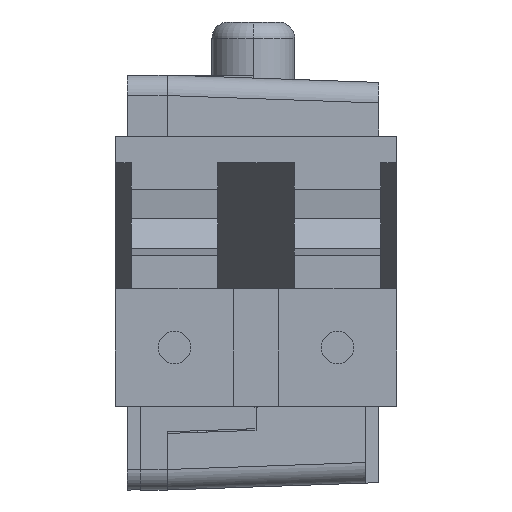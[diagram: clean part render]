
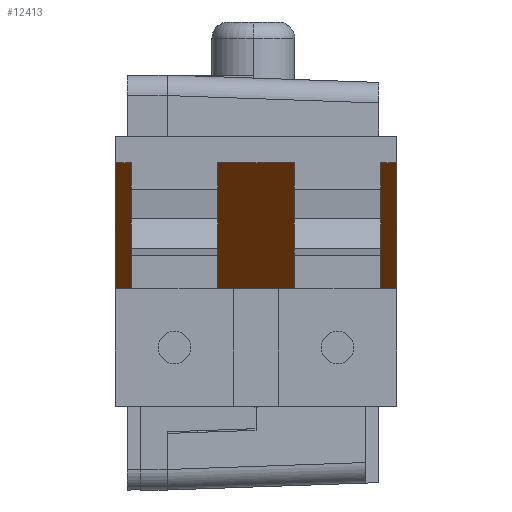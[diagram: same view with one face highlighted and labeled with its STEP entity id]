
A CAD part, left-side view. The second image highlights one B-rep face of the part: STEP entity #12413.
In plain terms, the highlighted planar face has unit normal (-0.565, 0, -0.825).
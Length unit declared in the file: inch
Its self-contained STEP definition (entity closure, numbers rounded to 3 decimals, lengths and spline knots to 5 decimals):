
#458 = EDGE_CURVE ( 'NONE', #21606, #23157, #37026, .T. ) ;
#580 = ORIENTED_EDGE ( 'NONE', *, *, #37223, .T. ) ;
#948 = CARTESIAN_POINT ( 'NONE',  ( -4.01584, 0.2375, 0.18101 ) ) ;
#1136 = EDGE_CURVE ( 'NONE', #13926, #22756, #18800, .T. ) ;
#1541 = VECTOR ( 'NONE', #2658, 39.37008 ) ;
#2274 = CARTESIAN_POINT ( 'NONE',  ( -4.01584, 0.0835, 0.18101 ) ) ;
#2658 = DIRECTION ( 'NONE',  ( 0., -1., 0. ) ) ;
#3226 = DIRECTION ( 'NONE',  ( 0., -1., 0. ) ) ;
#3839 = CARTESIAN_POINT ( 'NONE',  ( -3.73842, 0.2375, -0.00899 ) ) ;
#4127 = CARTESIAN_POINT ( 'NONE',  ( -3.73842, -0.1865, -0.00899 ) ) ;
#4268 = DIRECTION ( 'NONE',  ( 0.825, 0., -0.565 ) ) ;
#4680 = ORIENTED_EDGE ( 'NONE', *, *, #10351, .T. ) ;
#5635 = CARTESIAN_POINT ( 'NONE',  ( -4.01584, 0.65599, 0.18101 ) ) ;
#6137 = EDGE_CURVE ( 'NONE', #23157, #13069, #17377, .T. ) ;
#7540 = EDGE_LOOP ( 'NONE', ( #10987, #38334, #24268, #4680, #580, #18238, #26825, #36071, #22795, #16459 ) ) ;
#8088 = DIRECTION ( 'NONE',  ( 0., -1., 0. ) ) ;
#8247 = VECTOR ( 'NONE', #37607, 39.37008 ) ;
#8628 = VERTEX_POINT ( 'NONE', #29291 ) ;
#9012 = VERTEX_POINT ( 'NONE', #10898 ) ;
#9356 = LINE ( 'NONE', #32329, #1541 ) ;
#10351 = EDGE_CURVE ( 'NONE', #13069, #33225, #9356, .T. ) ;
#10453 = VECTOR ( 'NONE', #4268, 39.37008 ) ;
#10478 = PLANE ( 'NONE',  #30697 ) ;
#10790 = CARTESIAN_POINT ( 'NONE',  ( -3.73842, 0.65599, -0.00899 ) ) ;
#10898 = CARTESIAN_POINT ( 'NONE',  ( -4.01584, 0.2135, 0.18101 ) ) ;
#10987 = ORIENTED_EDGE ( 'NONE', *, *, #14446, .F. ) ;
#11528 = VECTOR ( 'NONE', #17868, 39.37008 ) ;
#12073 = DIRECTION ( 'NONE',  ( 0., 1., 0. ) ) ;
#12172 = VECTOR ( 'NONE', #3226, 39.37008 ) ;
#12413 = ADVANCED_FACE ( 'NONE', ( #18802 ), #10478, .T. ) ;
#13069 = VERTEX_POINT ( 'NONE', #35228 ) ;
#13926 = VERTEX_POINT ( 'NONE', #26026 ) ;
#14446 = EDGE_CURVE ( 'NONE', #21606, #9012, #21285, .T. ) ;
#14930 = CARTESIAN_POINT ( 'NONE',  ( -3.73842, 0.2375, -0.00899 ) ) ;
#14942 = CARTESIAN_POINT ( 'NONE',  ( -3.73842, 0.65599, -0.00899 ) ) ;
#15920 = DIRECTION ( 'NONE',  ( 0.825, 0., -0.565 ) ) ;
#16197 = CARTESIAN_POINT ( 'NONE',  ( -4.01584, 0.65599, 0.18101 ) ) ;
#16459 = ORIENTED_EDGE ( 'NONE', *, *, #29085, .T. ) ;
#17247 = CARTESIAN_POINT ( 'NONE',  ( -4.01584, -0.0325, 0.18101 ) ) ;
#17321 = LINE ( 'NONE', #29137, #22456 ) ;
#17377 = LINE ( 'NONE', #10790, #18323 ) ;
#17512 = LINE ( 'NONE', #2274, #8247 ) ;
#17729 = LINE ( 'NONE', #14942, #12172 ) ;
#17868 = DIRECTION ( 'NONE',  ( 0., -1., 0. ) ) ;
#18238 = ORIENTED_EDGE ( 'NONE', *, *, #1136, .F. ) ;
#18323 = VECTOR ( 'NONE', #37925, 39.37008 ) ;
#18524 = LINE ( 'NONE', #29747, #24131 ) ;
#18557 = VECTOR ( 'NONE', #28196, 39.37008 ) ;
#18800 = LINE ( 'NONE', #22002, #10453 ) ;
#18802 = FACE_OUTER_BOUND ( 'NONE', #7540, .T. ) ;
#19009 = VERTEX_POINT ( 'NONE', #17247 ) ;
#21285 = LINE ( 'NONE', #5635, #11528 ) ;
#21606 = VERTEX_POINT ( 'NONE', #948 ) ;
#22002 = CARTESIAN_POINT ( 'NONE',  ( -3.73842, -0.1865, -0.00899 ) ) ;
#22456 = VECTOR ( 'NONE', #8088, 39.37008 ) ;
#22756 = VERTEX_POINT ( 'NONE', #4127 ) ;
#22795 = ORIENTED_EDGE ( 'NONE', *, *, #27045, .F. ) ;
#22869 = CARTESIAN_POINT ( 'NONE',  ( -4.01584, 0.0835, 0.18101 ) ) ;
#23157 = VERTEX_POINT ( 'NONE', #14930 ) ;
#24131 = VECTOR ( 'NONE', #12073, 39.37008 ) ;
#24268 = ORIENTED_EDGE ( 'NONE', *, *, #6137, .T. ) ;
#25818 = EDGE_CURVE ( 'NONE', #8628, #13926, #17321, .T. ) ;
#26026 = CARTESIAN_POINT ( 'NONE',  ( -4.01584, -0.1865, 0.18101 ) ) ;
#26825 = ORIENTED_EDGE ( 'NONE', *, *, #25818, .F. ) ;
#27045 = EDGE_CURVE ( 'NONE', #34626, #19009, #34815, .T. ) ;
#27149 = EDGE_CURVE ( 'NONE', #8628, #19009, #18524, .T. ) ;
#28196 = DIRECTION ( 'NONE',  ( 0., -1., 0. ) ) ;
#28295 = CARTESIAN_POINT ( 'NONE',  ( -3.73842, 0.65599, -0.00899 ) ) ;
#29085 = EDGE_CURVE ( 'NONE', #34626, #9012, #17512, .T. ) ;
#29137 = CARTESIAN_POINT ( 'NONE',  ( -4.01584, 0.65599, 0.18101 ) ) ;
#29291 = CARTESIAN_POINT ( 'NONE',  ( -4.01584, -0.1625, 0.18101 ) ) ;
#29613 = VECTOR ( 'NONE', #31058, 39.37008 ) ;
#29747 = CARTESIAN_POINT ( 'NONE',  ( -4.01584, -0.1625, 0.18101 ) ) ;
#30697 = AXIS2_PLACEMENT_3D ( 'NONE', #28295, #36851, #15920 ) ;
#31058 = DIRECTION ( 'NONE',  ( 0.825, 0., -0.565 ) ) ;
#32329 = CARTESIAN_POINT ( 'NONE',  ( -3.73842, 0.65599, -0.00899 ) ) ;
#33225 = VERTEX_POINT ( 'NONE', #35955 ) ;
#34626 = VERTEX_POINT ( 'NONE', #22869 ) ;
#34815 = LINE ( 'NONE', #16197, #18557 ) ;
#35228 = CARTESIAN_POINT ( 'NONE',  ( -3.73842, 0.0595, -0.00899 ) ) ;
#35955 = CARTESIAN_POINT ( 'NONE',  ( -3.73842, -0.0085, -0.00899 ) ) ;
#36071 = ORIENTED_EDGE ( 'NONE', *, *, #27149, .T. ) ;
#36851 = DIRECTION ( 'NONE',  ( -0.565, 0., -0.825 ) ) ;
#37026 = LINE ( 'NONE', #3839, #29613 ) ;
#37223 = EDGE_CURVE ( 'NONE', #33225, #22756, #17729, .T. ) ;
#37607 = DIRECTION ( 'NONE',  ( 0., 1., 0. ) ) ;
#37925 = DIRECTION ( 'NONE',  ( 0., -1., 0. ) ) ;
#38334 = ORIENTED_EDGE ( 'NONE', *, *, #458, .T. ) ;
